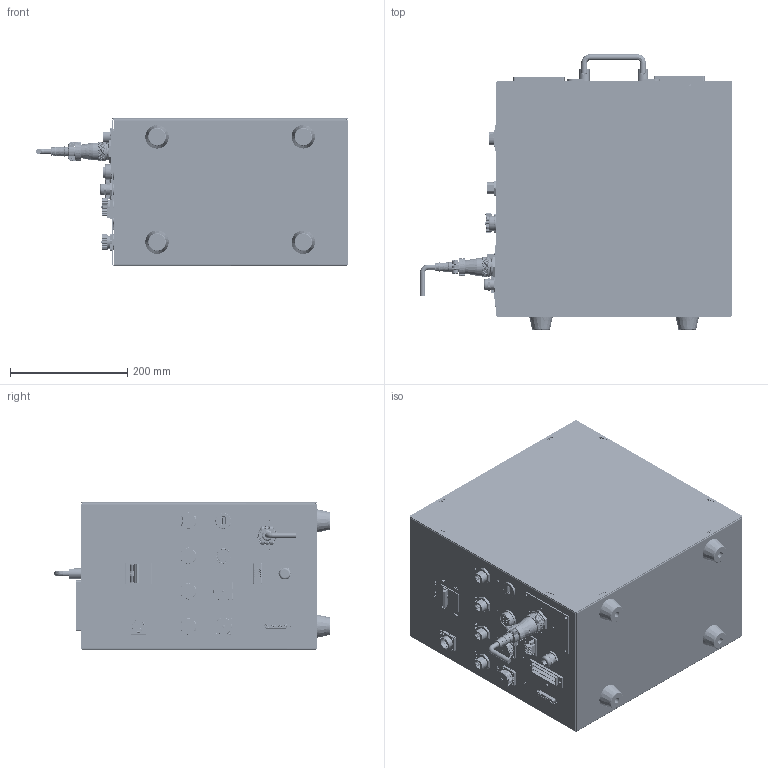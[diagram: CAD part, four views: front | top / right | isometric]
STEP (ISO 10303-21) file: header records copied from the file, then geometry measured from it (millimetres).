
FILE_DESCRIPTION (( 'STEP AP203' ), '1' );
FILE_NAME ('QFSM-AP11-2016-µç¿Ø¹ñ.STEP', '2026-03-17T00:58:10', ( '' ), ( '' ), 'SwSTEP 2.0', 'SolidWorks 2017', '' );
FILE_SCHEMA (( 'CONFIG_CONTROL_DESIGN' ));
Products named in the file (1): QFSM-AP11-2016-萇諷嶄
Bounding box: 533.36 x 471 x 251.5 mm (x, y, z)
Surface area: 1849399.4 mm2 (no closed solid volume)
Topology: 0 solids, 113 shells, 18572 faces, 50605 edges, 32672 vertices
Faces by surface type: plane 9735, cylinder 4800, bspline 2915, cone 1077, torus 45
Entity records: 786159 total; most frequent: CARTESIAN_POINT 365000, ORIENTED_EDGE 100994, DIRECTION 66373, EDGE_CURVE 50511, VERTEX_POINT 32670, VECTOR 22299, LINE 22299, AXIS2_PLACEMENT_3D 22037
